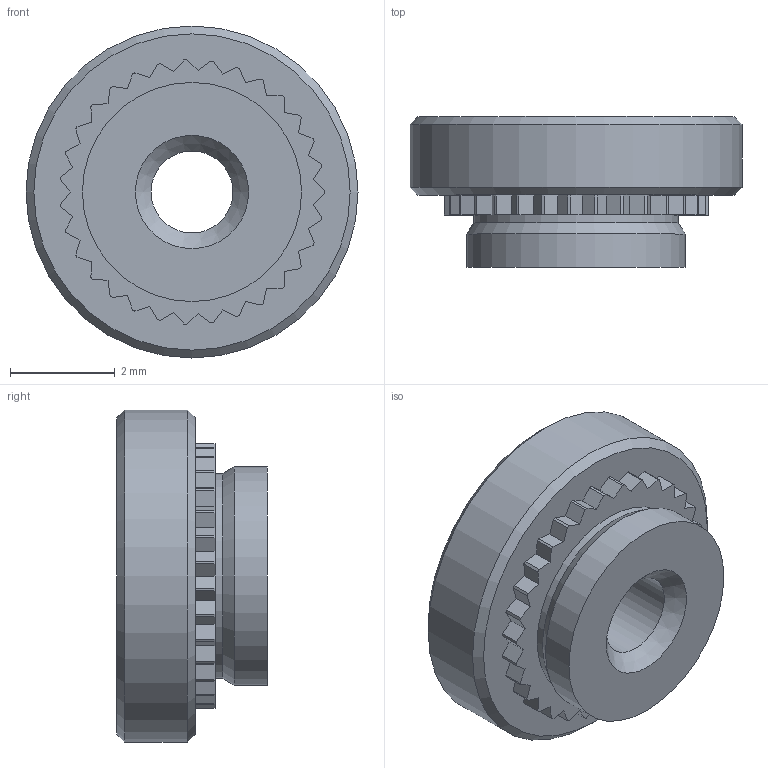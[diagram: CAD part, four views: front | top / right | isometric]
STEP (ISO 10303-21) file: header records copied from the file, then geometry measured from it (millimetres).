
FILE_DESCRIPTION(/* description */ (''),/* implementation_level */ '2;1');
FILE_NAME(/* name */ 'C:\Users\keval.kumar\Desktop\Fastit\Clinch nut\M2\Clinch Nut_M2_2.stp',/* time_stamp */ '2024-03-14T09:26:36+06:00',/* author */ ('keval.kumar'),/* organization */ (''),/* preprocessor_version */ 'ST-DEVELOPER v18.1',/* originating_system */ 'Autodesk Inventor 2022',/* authorisation */ '');
FILE_SCHEMA (('AUTOMOTIVE_DESIGN { 1 0 10303 214 3 1 1 }'));
Length unit declared in the file: millimetre
Products named in the file (1): Clinch Nut_M3_2
Bounding box: 6.35 x 2.88 x 6.35 mm (x, y, z)
Volume: 61.4 mm3; surface area: 121.4 mm2
Topology: 1 solids, 1 shells, 106 faces, 303 edges, 201 vertices
Faces by surface type: plane 66, cylinder 35, cone 5
Full cylindrical faces by diameter (mm): 1.567 x1, 3.91 x1, 4.19 x1, 6.35 x1
Entity records: 3507 total; most frequent: CARTESIAN_POINT 611, ORIENTED_EDGE 606, DIRECTION 594, EDGE_CURVE 303, LINE 226, VECTOR 226, VERTEX_POINT 201, AXIS2_PLACEMENT_3D 184
